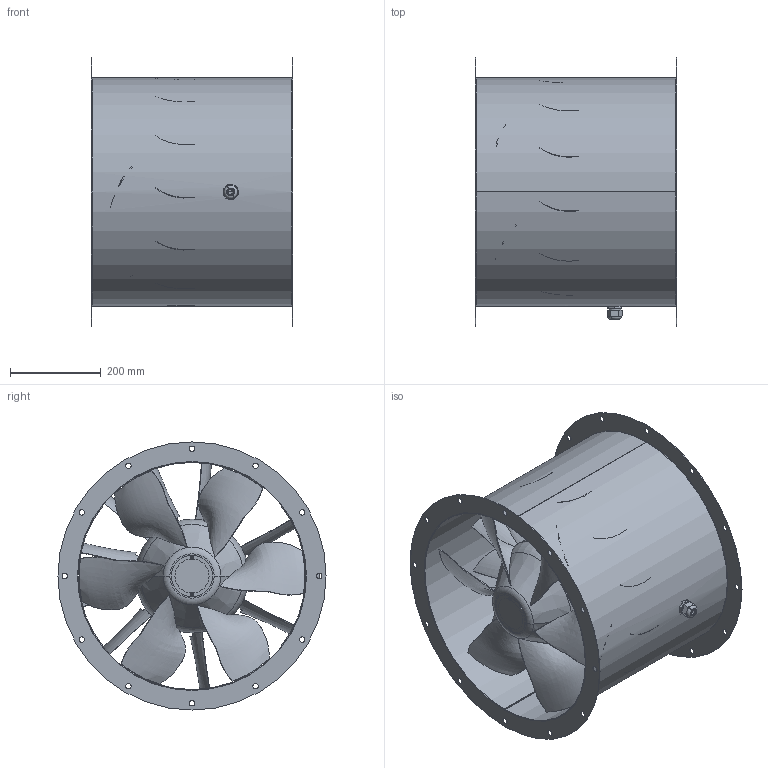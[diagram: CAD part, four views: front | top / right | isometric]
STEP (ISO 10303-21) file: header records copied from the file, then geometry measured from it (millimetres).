
FILE_DESCRIPTION (( 'STEP AP203' ), '1' );
FILE_NAME ('154113-00_AL500EC01_step.step', '2020-05-29T09:31:41', ( '' ), ( '' ), 'SwSTEP 2.0', 'SolidWorks 2017', '' );
FILE_SCHEMA (( 'CONFIG_CONTROL_DESIGN' ));
Length unit declared in the file: millimetre
Products named in the file (1): 154113-00_AL500EC01_step
Bounding box: 443 x 590 x 590 mm (x, y, z)
Surface area: 2479460.8 mm2 (no closed solid volume)
Topology: 0 solids, 81 shells, 774 faces, 4387 edges, 3622 vertices
Faces by surface type: cylinder 246, plane 233, bspline 150, torus 87, cone 58
Entity records: 386708 total; most frequent: CARTESIAN_POINT 356298, ORIENTED_EDGE 5610, DIRECTION 5374, EDGE_CURVE 4381, VERTEX_POINT 3622, LINE 1828, VECTOR 1828, AXIS2_PLACEMENT_3D 1773
